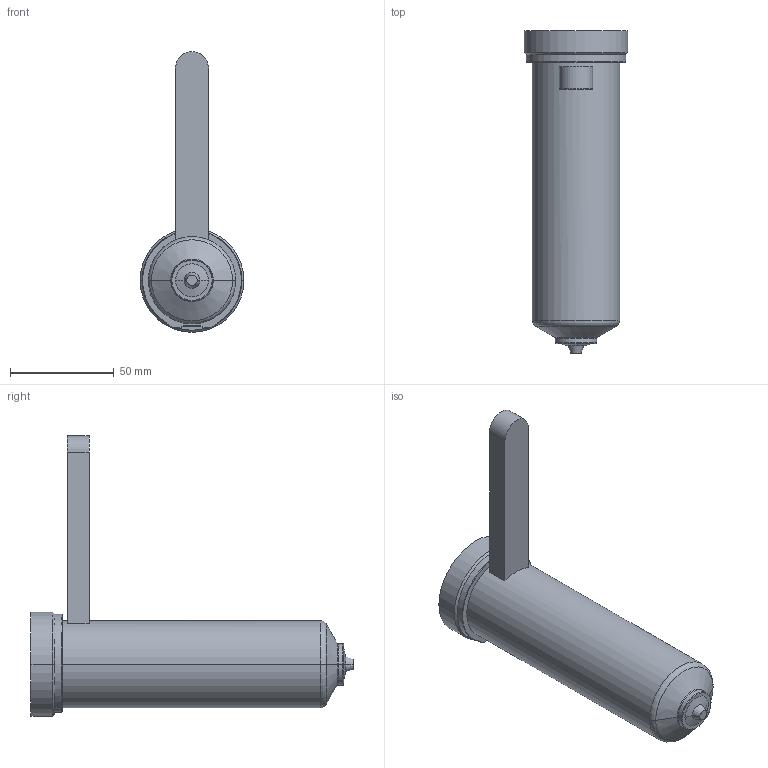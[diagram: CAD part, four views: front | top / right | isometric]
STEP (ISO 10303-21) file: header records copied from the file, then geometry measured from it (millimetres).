
FILE_DESCRIPTION((''),'2;1');
FILE_NAME('EO16_VG-BL_WR_140_COT','2024-02-19T13:21:40',('sundharh'),(''),'CREO PARAMETRIC BY PTC INC, 2023154','CREO PARAMETRIC BY PTC INC, 2023154','');
FILE_SCHEMA(('CONFIG_CONTROL_DESIGN'));
Length unit declared in the file: millimetre
Products named in the file (1): EO16_VG-BL_WR_140_COT
Bounding box: 50 x 155 x 135 mm (x, y, z)
Volume: 224398 mm3; surface area: 27788.1 mm2
Topology: 1 solids, 1 shells, 38 faces, 81 edges, 48 vertices
Faces by surface type: cylinder 11, plane 10, torus 9, cone 6, sphere 2
Entity records: 1151 total; most frequent: CARTESIAN_POINT 263, DIRECTION 199, ORIENTED_EDGE 162, AXIS2_PLACEMENT_3D 86, EDGE_CURVE 81, VERTEX_POINT 48, CIRCLE 48, EDGE_LOOP 41
